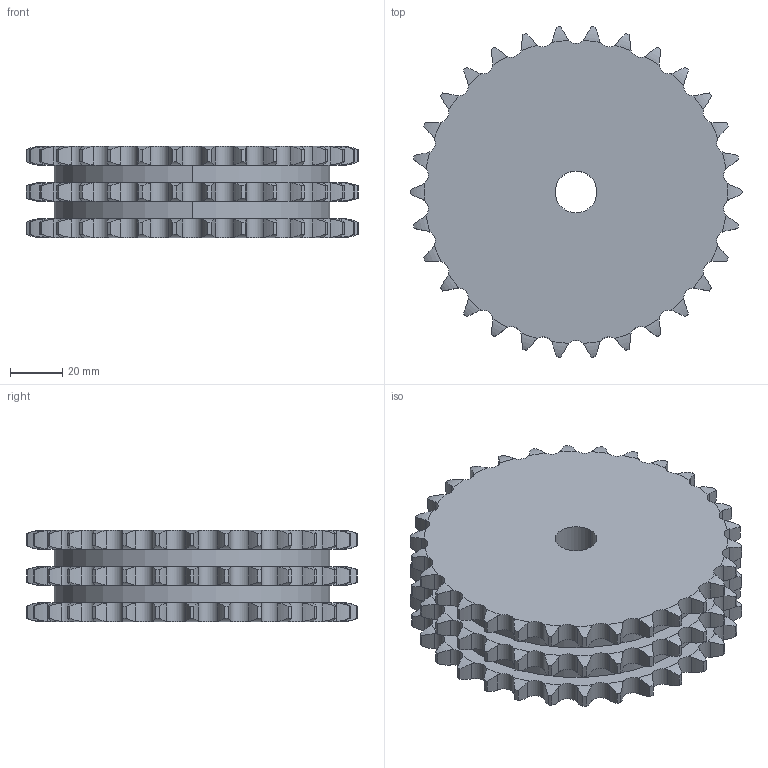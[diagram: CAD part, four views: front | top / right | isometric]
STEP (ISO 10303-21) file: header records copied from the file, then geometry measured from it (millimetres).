
FILE_DESCRIPTION((''),'2;1');
FILE_NAME('500-203-0030_PRT','2021-02-12T',('Brieden'),('Brieden'),'PRO/ENGINEER BY PARAMETRIC TECHNOLOGY CORPORATION, 2010160','PRO/ENGINEER BY PARAMETRIC TECHNOLOGY CORPORATION, 2010160','');
FILE_SCHEMA(('AUTOMOTIVE_DESIGN { 1 0 10303 214 1 1 1 1 }'));
Length unit declared in the file: millimetre
Products named in the file (1): 500-203-0030_PRT
Bounding box: 127.12 x 126.57 x 34.9 mm (x, y, z)
Volume: 348046.3 mm3; surface area: 49227.9 mm2
Topology: 1 solids, 1 shells, 552 faces, 1638 edges, 1092 vertices
Faces by surface type: cylinder 366, torus 180, plane 6
Entity records: 26600 total; most frequent: CARTESIAN_POINT 7703, ORIENTED_EDGE 3276, DIRECTION 2574, PRESENTATION_STYLE_ASSIGNMENT 1639, STYLED_ITEM 1639, CURVE_STYLE 1638, EDGE_CURVE 1638, AXIS2_PLACEMENT_3D 1104
